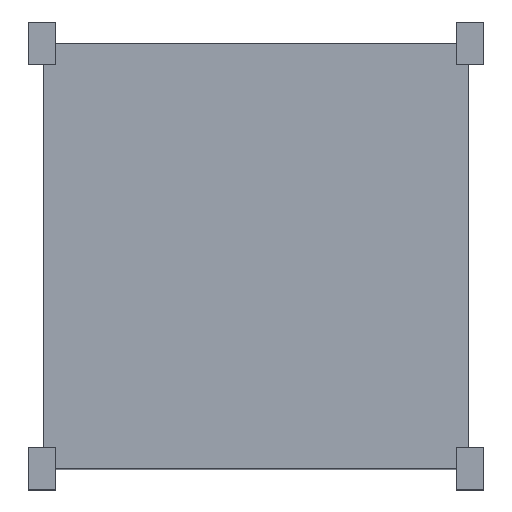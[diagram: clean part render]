
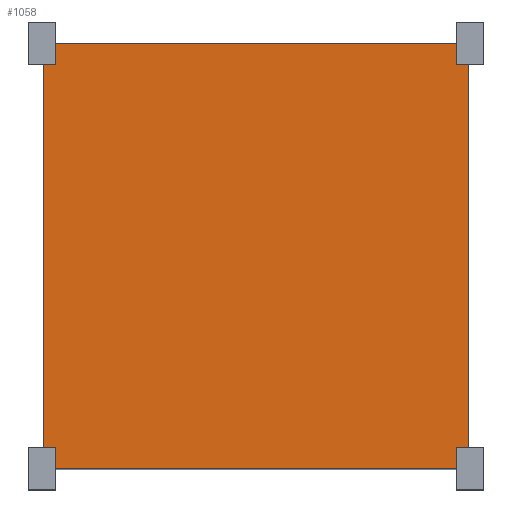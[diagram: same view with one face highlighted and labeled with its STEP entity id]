
A CAD part, top view. The second image highlights one B-rep face of the part: STEP entity #1058.
In plain terms, the highlighted planar face has unit normal (0, 0, 1).
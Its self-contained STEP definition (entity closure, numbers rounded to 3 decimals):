
#38 = CARTESIAN_POINT ( 'NONE',  ( 5650., -1000., 5400. ) ) ;
#66 = EDGE_CURVE ( 'NONE', #459, #489, #647, .T. ) ;
#207 = CARTESIAN_POINT ( 'NONE',  ( 5100., -1550., 5400. ) ) ;
#233 = EDGE_CURVE ( 'NONE', #987, #1042, #629, .T. ) ;
#245 = DIRECTION ( 'NONE',  ( 1., 0., 0. ) ) ;
#266 = VECTOR ( 'NONE', #497, 1000. ) ;
#276 = LINE ( 'NONE', #673, #839 ) ;
#364 = VECTOR ( 'NONE', #1004, 1000. ) ;
#375 = CARTESIAN_POINT ( 'NONE',  ( 5650., -1550., 5400. ) ) ;
#405 = LINE ( 'NONE', #207, #991 ) ;
#433 = ORIENTED_EDGE ( 'NONE', *, *, #66, .F. ) ;
#459 = VERTEX_POINT ( 'NONE', #1520 ) ;
#461 = CARTESIAN_POINT ( 'NONE',  ( 4550., -450., 5400. ) ) ;
#489 = VERTEX_POINT ( 'NONE', #461 ) ;
#497 = DIRECTION ( 'NONE',  ( 0., -1., 0. ) ) ;
#593 = AXIS2_PLACEMENT_3D ( 'NONE', #710, #1436, #245 ) ;
#602 = CARTESIAN_POINT ( 'NONE',  ( 5650., -450., 5400. ) ) ;
#629 = LINE ( 'NONE', #38, #266 ) ;
#647 = LINE ( 'NONE', #880, #364 ) ;
#673 = CARTESIAN_POINT ( 'NONE',  ( 5100., -450., 5400. ) ) ;
#704 = PLANE ( 'NONE',  #593 ) ;
#710 = CARTESIAN_POINT ( 'NONE',  ( 5100., -1000., 5400. ) ) ;
#839 = VECTOR ( 'NONE', #983, 1000. ) ;
#865 = DIRECTION ( 'NONE',  ( -1., 0., 0. ) ) ;
#880 = CARTESIAN_POINT ( 'NONE',  ( 4550., -1000., 5400. ) ) ;
#884 = EDGE_LOOP ( 'NONE', ( #1449, #1126, #1110, #433 ) ) ;
#983 = DIRECTION ( 'NONE',  ( 1., 0., 0. ) ) ;
#987 = VERTEX_POINT ( 'NONE', #602 ) ;
#991 = VECTOR ( 'NONE', #865, 1000. ) ;
#1004 = DIRECTION ( 'NONE',  ( 0., 1., 0. ) ) ;
#1042 = VERTEX_POINT ( 'NONE', #375 ) ;
#1058 = ADVANCED_FACE ( 'NONE', ( #1426 ), #704, .T. ) ;
#1106 = EDGE_CURVE ( 'NONE', #1042, #459, #405, .T. ) ;
#1110 = ORIENTED_EDGE ( 'NONE', *, *, #1127, .F. ) ;
#1126 = ORIENTED_EDGE ( 'NONE', *, *, #233, .F. ) ;
#1127 = EDGE_CURVE ( 'NONE', #489, #987, #276, .T. ) ;
#1426 = FACE_OUTER_BOUND ( 'NONE', #884, .T. ) ;
#1436 = DIRECTION ( 'NONE',  ( 0., 0., 1. ) ) ;
#1449 = ORIENTED_EDGE ( 'NONE', *, *, #1106, .F. ) ;
#1520 = CARTESIAN_POINT ( 'NONE',  ( 4550., -1550., 5400. ) ) ;
